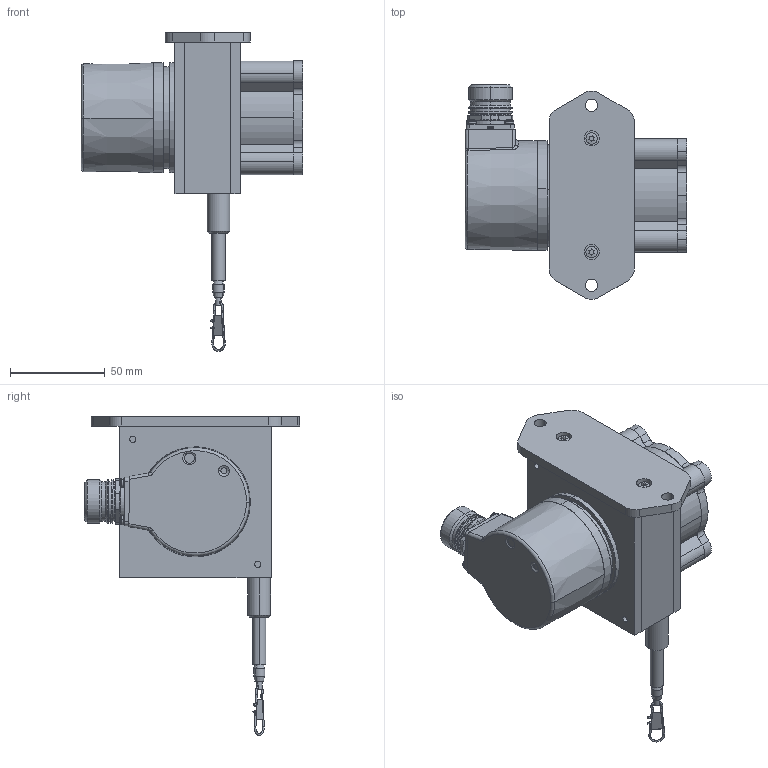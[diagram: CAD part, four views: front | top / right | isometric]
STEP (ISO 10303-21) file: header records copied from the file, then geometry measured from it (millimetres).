
FILE_DESCRIPTION (( 'STEP AP214' ), '1' );
FILE_NAME ('D8.4B1.0300.6324.G123.STEP', '2009-05-12T07:40:00', ( 'admin' ), ( 'Fritz Kübler GmbH' ), 'SwSTEP 2.0', 'SolidWorks 2009', '' );
FILE_SCHEMA (( 'AUTOMOTIVE_DESIGN' ));
Length unit declared in the file: millimetre
Products named in the file (1): D8.4B1.0300.6324.G123
Bounding box: 117 x 113.55 x 168.32 mm (x, y, z)
Volume: 208936.6 mm3; surface area: 126251 mm2
Topology: 36 solids, 38 shells, 1446 faces, 3443 edges, 2107 vertices
Faces by surface type: cylinder 608, plane 424, cone 240, torus 97, bspline 40, sphere 37
Entity records: 60370 total; most frequent: CARTESIAN_POINT 10214, DIRECTION 7539, ORIENTED_EDGE 6734, EDGE_CURVE 3367, AXIS2_PLACEMENT_3D 3068, VERTEX_POINT 2106, EDGE_LOOP 1671, CIRCLE 1661
